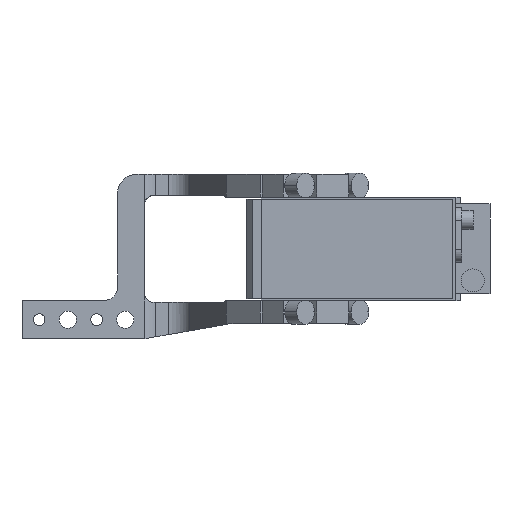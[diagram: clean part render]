
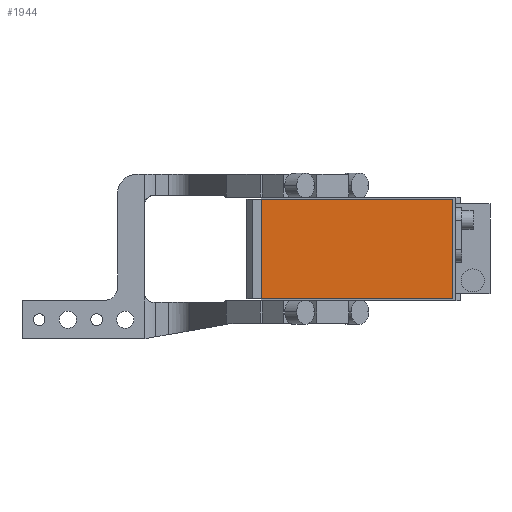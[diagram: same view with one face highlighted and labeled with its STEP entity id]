
A CAD part, front view. The second image highlights one B-rep face of the part: STEP entity #1944.
In plain terms, the highlighted planar face has unit normal (0, -1, 0).
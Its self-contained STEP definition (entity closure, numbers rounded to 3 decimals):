
#354 = CARTESIAN_POINT ( 'NONE',  ( -19., -286.5, -26. ) ) ;
#558 = CARTESIAN_POINT ( 'NONE',  ( -19., -286.5, 26. ) ) ;
#1277 = CARTESIAN_POINT ( 'NONE',  ( 81., -286.5, 26. ) ) ;
#1386 = ORIENTED_EDGE ( 'NONE', *, *, #5208, .T. ) ;
#1426 = ORIENTED_EDGE ( 'NONE', *, *, #8531, .T. ) ;
#1944 = ADVANCED_FACE ( 'NONE', ( #5386 ), #9794, .T. ) ;
#2140 = DIRECTION ( 'NONE',  ( 0., -1., 0. ) ) ;
#3589 = ORIENTED_EDGE ( 'NONE', *, *, #9079, .T. ) ;
#3803 = LINE ( 'NONE', #1277, #4714 ) ;
#4714 = VECTOR ( 'NONE', #12148, 1000. ) ;
#4924 = DIRECTION ( 'NONE',  ( 0., 0., -1. ) ) ;
#5208 = EDGE_CURVE ( 'NONE', #9521, #10383, #12073, .T. ) ;
#5386 = FACE_OUTER_BOUND ( 'NONE', #8870, .T. ) ;
#5560 = CARTESIAN_POINT ( 'NONE',  ( -19., -286.5, 26. ) ) ;
#5927 = CARTESIAN_POINT ( 'NONE',  ( -19., -286.5, -26. ) ) ;
#6091 = VERTEX_POINT ( 'NONE', #10007 ) ;
#6866 = LINE ( 'NONE', #354, #12691 ) ;
#7299 = VECTOR ( 'NONE', #9676, 1000. ) ;
#7815 = ORIENTED_EDGE ( 'NONE', *, *, #8955, .T. ) ;
#8531 = EDGE_CURVE ( 'NONE', #6091, #11405, #3803, .T. ) ;
#8655 = CARTESIAN_POINT ( 'NONE',  ( 0., -286.5, 0. ) ) ;
#8870 = EDGE_LOOP ( 'NONE', ( #1386, #3589, #1426, #7815 ) ) ;
#8939 = VECTOR ( 'NONE', #4924, 1000. ) ;
#8955 = EDGE_CURVE ( 'NONE', #11405, #9521, #13125, .T. ) ;
#9079 = EDGE_CURVE ( 'NONE', #10383, #6091, #6866, .T. ) ;
#9521 = VERTEX_POINT ( 'NONE', #5560 ) ;
#9676 = DIRECTION ( 'NONE',  ( -1., 0., 0. ) ) ;
#9709 = CARTESIAN_POINT ( 'NONE',  ( 81., -286.5, 26. ) ) ;
#9794 = PLANE ( 'NONE',  #12394 ) ;
#10007 = CARTESIAN_POINT ( 'NONE',  ( 81., -286.5, -26. ) ) ;
#10383 = VERTEX_POINT ( 'NONE', #5927 ) ;
#10940 = CARTESIAN_POINT ( 'NONE',  ( -19., -286.5, 26. ) ) ;
#11405 = VERTEX_POINT ( 'NONE', #9709 ) ;
#12073 = LINE ( 'NONE', #558, #8939 ) ;
#12148 = DIRECTION ( 'NONE',  ( 0., 0., 1. ) ) ;
#12394 = AXIS2_PLACEMENT_3D ( 'NONE', #8655, #2140, #13916 ) ;
#12691 = VECTOR ( 'NONE', #13227, 1000. ) ;
#13125 = LINE ( 'NONE', #10940, #7299 ) ;
#13227 = DIRECTION ( 'NONE',  ( 1., 0., 0. ) ) ;
#13916 = DIRECTION ( 'NONE',  ( 0., 0., -1. ) ) ;
